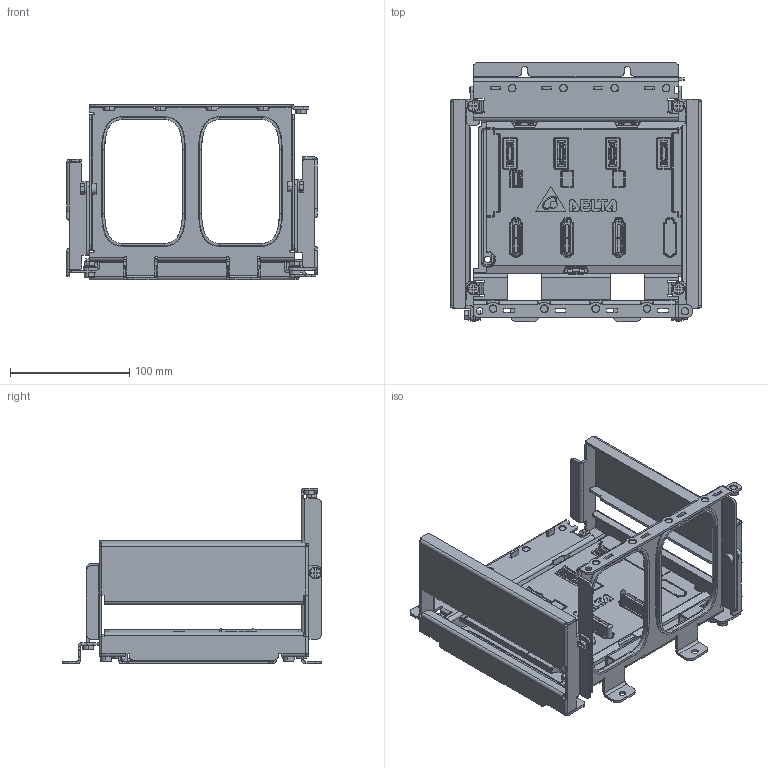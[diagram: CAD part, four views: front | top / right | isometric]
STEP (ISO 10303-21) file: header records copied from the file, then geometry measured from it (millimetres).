
FILE_DESCRIPTION((''),'2;1');
FILE_NAME('ASD-W3-BP04','2022-12-19T15:19:12',('BILL.CHANG'),(''),'CREO PARAMETRIC BY PTC INC, 2018400','CREO PARAMETRIC BY PTC INC, 2018400','');
FILE_SCHEMA(('CONFIG_CONTROL_DESIGN','SHAPE_APPEARANCE_LAYERS_GROUPS'));
Products named in the file (1): ASD-W3-BP04
Bounding box: 210 x 217 x 147.4 mm (x, y, z)
Volume: 332257.1 mm3; surface area: 273823.6 mm2
Topology: 1 solids, 1 shells, 3639 faces, 9816 edges, 6244 vertices
Faces by surface type: plane 2563, cylinder 673, cone 142, torus 101, bspline 64, extrusion 59, sphere 37
Entity records: 118038 total; most frequent: CARTESIAN_POINT 26385, ORIENTED_EDGE 19574, DIRECTION 18298, EDGE_CURVE 9787, VECTOR 7702, LINE 7643, VERTEX_POINT 6244, AXIS2_PLACEMENT_3D 5298
